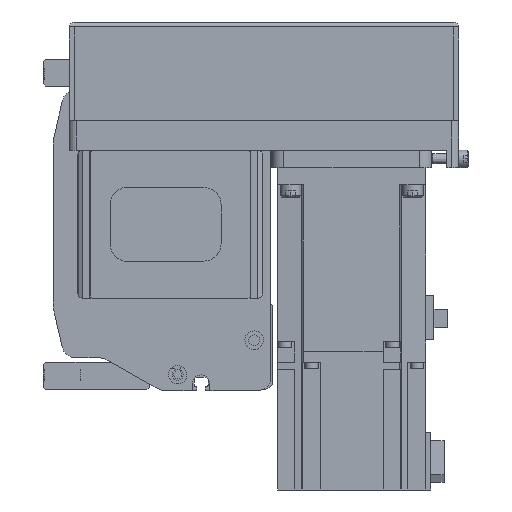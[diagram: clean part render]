
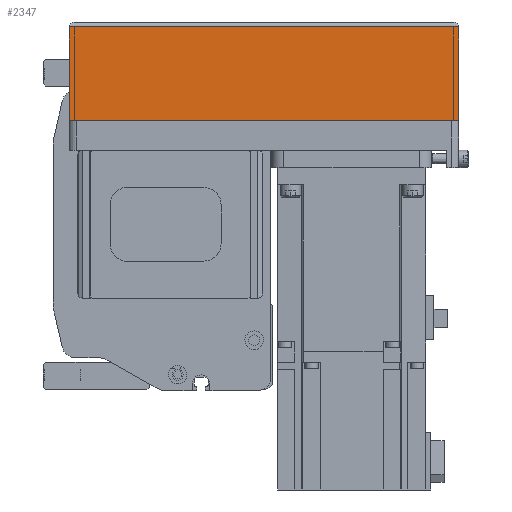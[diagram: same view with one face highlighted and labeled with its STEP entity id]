
A CAD part, left-side view. The second image highlights one B-rep face of the part: STEP entity #2347.
In plain terms, the highlighted planar face has unit normal (-1, 0, 0) as drawn and (0, -1, 0) by its records, which use the part's own axes.
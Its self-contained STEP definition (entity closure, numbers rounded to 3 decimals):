
#2347 = ADVANCED_FACE( '', ( #5282 ), #5283, .T. );
#5282 = FACE_OUTER_BOUND( '', #8910, .T. );
#5283 = PLANE( '', #8911 );
#8910 = EDGE_LOOP( '', ( #15731, #15732, #15733, #15734 ) );
#8911 = AXIS2_PLACEMENT_3D( '', #15735, #15736, #15737 );
#15731 = ORIENTED_EDGE( '', *, *, #22931, .F. );
#15732 = ORIENTED_EDGE( '', *, *, #21504, .F. );
#15733 = ORIENTED_EDGE( '', *, *, #22932, .T. );
#15734 = ORIENTED_EDGE( '', *, *, #22933, .T. );
#15735 = CARTESIAN_POINT( '', ( -158., -39., -12.1 ) );
#15736 = DIRECTION( '', ( 0., -1., 0. ) );
#15737 = DIRECTION( '', ( 0., 0., -1. ) );
#21504 = EDGE_CURVE( '', #24543, #26096, #26097, .T. );
#22931 = EDGE_CURVE( '', #26096, #28240, #28241, .T. );
#22932 = EDGE_CURVE( '', #24543, #28242, #28243, .T. );
#22933 = EDGE_CURVE( '', #28242, #28240, #28244, .T. );
#24543 = VERTEX_POINT( '', #30283 );
#26096 = VERTEX_POINT( '', #33001 );
#26097 = LINE( '', #33002, #33003 );
#28240 = VERTEX_POINT( '', #36226 );
#28241 = LINE( '', #36227, #36228 );
#28242 = VERTEX_POINT( '', #36229 );
#28243 = LINE( '', #36230, #36231 );
#28244 = LINE( '', #36232, #36233 );
#30283 = CARTESIAN_POINT( '', ( -158., -39., -12.1 ) );
#33001 = CARTESIAN_POINT( '', ( 0., -39., -12.1 ) );
#33002 = CARTESIAN_POINT( '', ( -158., -39., -12.1 ) );
#33003 = VECTOR( '', #39717, 1000. );
#36226 = CARTESIAN_POINT( '', ( 0., -39., -50. ) );
#36227 = CARTESIAN_POINT( '', ( 0., -39., -12.1 ) );
#36228 = VECTOR( '', #41448, 1000. );
#36229 = CARTESIAN_POINT( '', ( -158., -39., -50. ) );
#36230 = CARTESIAN_POINT( '', ( -158., -39., -12.1 ) );
#36231 = VECTOR( '', #41449, 1000. );
#36232 = CARTESIAN_POINT( '', ( -158., -39., -50. ) );
#36233 = VECTOR( '', #41450, 1000. );
#39717 = DIRECTION( '', ( 1., 0., 0. ) );
#41448 = DIRECTION( '', ( 0., 0., -1. ) );
#41449 = DIRECTION( '', ( 0., 0., -1. ) );
#41450 = DIRECTION( '', ( 1., 0., 0. ) );
